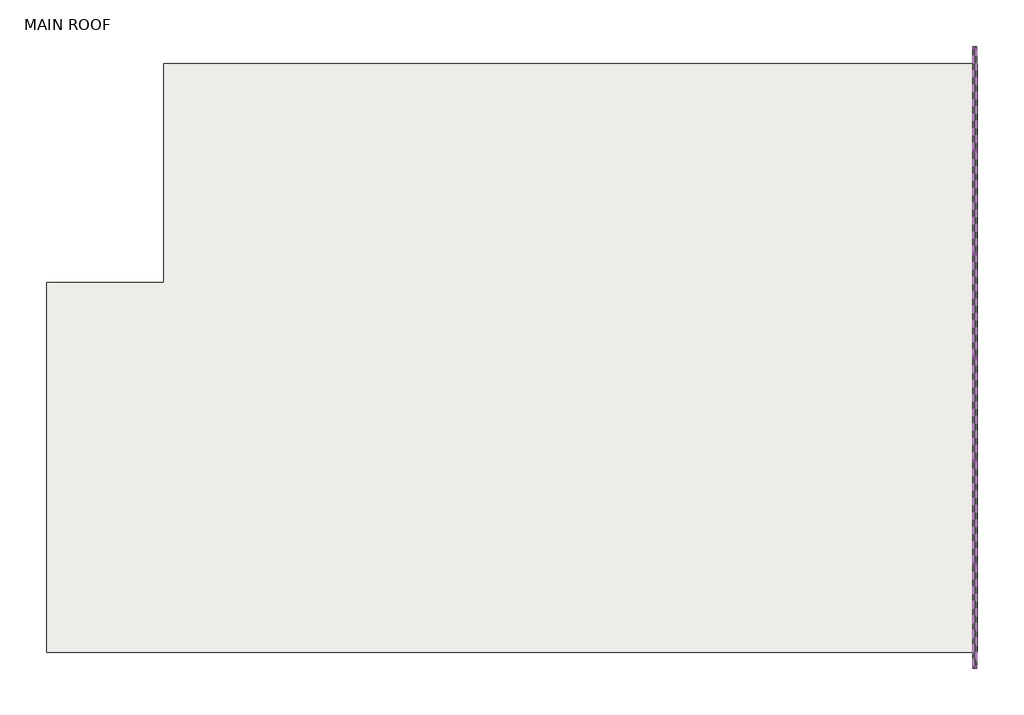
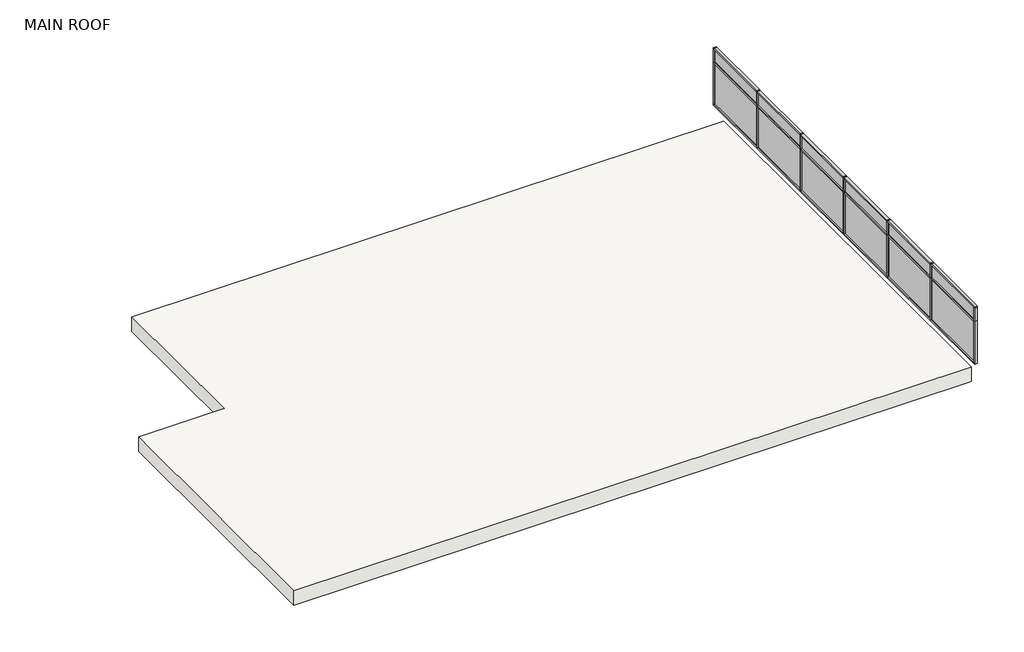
# One storey: 32 members, 12 plates, 1 roof.
"""IFC4 building model written with IfcOpenShell, lengths in millimetres."""

import ifcopenshell
import ifcopenshell.guid

model = None  # the IFC model being written
_history = None  # IfcOwnerHistory: only IFC2X3 demands one
_inside = {}  # id of a spatial element -> (the spatial element, [elements in it])
_under = {}  # id of a project, library or spatial element -> (it, [spatial elements below it])
_declared = {}  # id of a project -> (the project, [libraries it declares])
_typed = {}  # id of a type object -> (the type object, [elements of that type])
_made_of = {}  # id of a material, layer set ... -> (it, [elements and type objects made of it])


def new_model(schema):
    """Start an empty IFC model of exactly this schema.

    Asked for "IFC4X3", IfcOpenShell would pick the latest addendum, in which some entities
    have other attributes; the version numbers below select the first issue.
    IFC2X3 requires an IfcOwnerHistory on every rooted entity: one is made here for all.
    """
    global model, _history
    if schema == "IFC4X3":
        model = ifcopenshell.file(schema_version=(4, 3, 0, 0))
    else:
        model = ifcopenshell.file(schema=schema)
    _inside.clear()
    _under.clear()
    _declared.clear()
    _typed.clear()
    _made_of.clear()
    _history = None
    if model.schema == "IFC2X3":
        org = make("IfcOrganization", Name="unknown")
        user = make(
            "IfcPersonAndOrganization",
            ThePerson=make("IfcPerson", FamilyName="unknown"),
            TheOrganization=org,
        )
        app = make(
            "IfcApplication",
            ApplicationDeveloper=org,
            Version="unknown",
            ApplicationFullName="unknown",
            ApplicationIdentifier="unknown",
        )
        _history = make(
            "IfcOwnerHistory",
            OwningUser=user,
            OwningApplication=app,
            ChangeAction="ADDED",
            CreationDate=0,
        )
    return model


def make(cls, **values):
    """One entity of the class cls with the attributes given. An attribute that is None is left unset."""
    return model.create_entity(
        cls, **{name: value for name, value in values.items() if value is not None}
    )


def rooted(cls, **values):
    """An entity with a GlobalId (a new one), such as an element, a storey or a relation."""
    return make(cls, GlobalId=ifcopenshell.guid.new(), OwnerHistory=_history, **values)


def si_unit(unit_type, name, prefix=None):
    """IfcSIUnit, for example si_unit("LENGTHUNIT", "METRE", prefix="MILLI")."""
    return make("IfcSIUnit", UnitType=unit_type, Prefix=prefix, Name=name)


def assignment(units):
    """IfcUnitAssignment: the units of a project."""
    return None if units is None else make("IfcUnitAssignment", Units=units)


def point(xyz):
    """IfcCartesianPoint."""
    return None if xyz is None else make("IfcCartesianPoint", Coordinates=xyz)


def direction(xyz):
    """IfcDirection."""
    return None if xyz is None else make("IfcDirection", DirectionRatios=xyz)


def frame(location, z_axis=None, x_axis=None):
    """IfcAxis2Placement3D, a coordinate frame: its origin and axes. An axis left out is left unset."""
    return make(
        "IfcAxis2Placement3D",
        Location=point(location),
        Axis=direction(z_axis),
        RefDirection=direction(x_axis),
    )


def origin():
    """The frame at (0, 0, 0) with its axes left unset."""
    return frame((0.0, 0.0, 0.0))


def origin_with_axes():
    """The frame at (0, 0, 0) with the z axis (0, 0, 1) and the x axis (1, 0, 0) written out."""
    return frame((0.0, 0.0, 0.0), z_axis=(0.0, 0.0, 1.0), x_axis=(1.0, 0.0, 0.0))


def place(relative_to, where):
    """IfcLocalPlacement: puts the frame where relative to a parent placement (None: the world)."""
    return make(
        "IfcLocalPlacement", PlacementRelTo=relative_to, RelativePlacement=where
    )


def context(
    kind, dimensions, precision=None, world=None, true_north=None, identifier=None
):
    """IfcGeometricRepresentationContext, for example the 3D "Model" context."""
    return make(
        "IfcGeometricRepresentationContext",
        ContextIdentifier=identifier,
        ContextType=kind,
        CoordinateSpaceDimension=dimensions,
        Precision=precision,
        WorldCoordinateSystem=world,
        TrueNorth=true_north,
    )


def project(units=None, contexts=None):
    """IfcProject with its units and contexts."""
    return rooted(
        "IfcProject",
        Name="project",
        RepresentationContexts=contexts,
        UnitsInContext=assignment(units),
    )


def spatial(cls, under=None, at=None, **own):
    """A site, building, storey or space (cls), placed at a placement, below another one or the project."""
    s = rooted(cls, ObjectPlacement=at, **own)
    if under is not None:
        _under.setdefault(under.id(), (under, []))[1].append(s)
    return s


def polyline(points):
    """IfcPolyline through the points."""
    return make("IfcPolyline", Points=[point(p) for p in points])


def outline(outer, holes=None, kind="AREA"):
    """IfcArbitraryClosedProfileDef: a profile drawn as a closed curve; with holes, ...WithVoids."""
    if holes is None:
        return make("IfcArbitraryClosedProfileDef", ProfileType=kind, OuterCurve=outer)
    return make(
        "IfcArbitraryProfileDefWithVoids",
        ProfileType=kind,
        OuterCurve=outer,
        InnerCurves=holes,
    )


def extrude(swept, where, along, depth):
    """IfcExtrudedAreaSolid: the profile swept, set in the frame where, extruded along a direction by depth."""
    return make(
        "IfcExtrudedAreaSolid",
        SweptArea=swept,
        Position=where,
        ExtrudedDirection=direction(along),
        Depth=depth,
    )


def shape(context_of_items, identifier, shape_type, items):
    """IfcShapeRepresentation: the items that make up one representation, for example the "Body"."""
    return make(
        "IfcShapeRepresentation",
        ContextOfItems=context_of_items,
        RepresentationIdentifier=identifier,
        RepresentationType=shape_type,
        Items=items,
    )


def source(mapping_origin, context_of_items, identifier, shape_type, items):
    """IfcRepresentationMap: a shape defined once, which mapped items show again and again."""
    return make(
        "IfcRepresentationMap",
        MappingOrigin=mapping_origin,
        MappedRepresentation=shape(context_of_items, identifier, shape_type, items),
    )


def transform(
    local_origin,
    x_axis=None,
    y_axis=None,
    z_axis=None,
    scale=None,
    scale2=None,
    scale3=None,
    uniform=True,
):
    """IfcCartesianTransformationOperator3D, or its non-uniform kind. x_axis, y_axis, z_axis: its Axis1, 2, 3."""
    if uniform:
        return make(
            "IfcCartesianTransformationOperator3D",
            Axis1=direction(x_axis),
            Axis2=direction(y_axis),
            LocalOrigin=point(local_origin),
            Scale=scale,
            Axis3=direction(z_axis),
        )
    return make(
        "IfcCartesianTransformationOperator3DnonUniform",
        Axis1=direction(x_axis),
        Axis2=direction(y_axis),
        LocalOrigin=point(local_origin),
        Scale=scale,
        Axis3=direction(z_axis),
        Scale2=scale2,
        Scale3=scale3,
    )


def mapped(mapping_source, mapping_target):
    """IfcMappedItem: shows the shape of a source again, moved by a transform."""
    return make(
        "IfcMappedItem", MappingSource=mapping_source, MappingTarget=mapping_target
    )


def made_of(thing, what):
    """Note that an element or type object is made of a material, layer set ...; save() writes the relation."""
    if what is not None:
        _made_of.setdefault(what.id(), (what, []))[1].append(thing)
    return thing


def element(
    cls,
    number,
    at=None,
    inside=None,
    cuts=None,
    type_object=None,
    material=None,
    context=None,
    identifier="Body",
    shape_type=None,
    held_by="IfcProductDefinitionShape",
    body=None,
    shapes=None,
    **own,
):
    """One element of the class cls, such as IfcWall. Its Tag is "e" and its number.

    at: its placement. inside: the storey or other place that contains it. cuts: it is an
    opening in that element (IfcRelVoidsElement). A single representation is given by context,
    identifier, shape_type and body (its items); several are given by shapes. held_by: the class
    of the entity that holds the representations. save() writes the other relations.
    """
    e = rooted(cls, Tag="e%d" % number, ObjectPlacement=at, **own)
    if body is not None:
        shapes = [shape(context, identifier, shape_type, body)]
    if shapes is not None:
        e.Representation = make(held_by, Representations=shapes)
    if inside is not None:
        _inside.setdefault(inside.id(), (inside, []))[1].append(e)
    if cuts is not None:
        rooted(
            "IfcRelVoidsElement", RelatingBuildingElement=cuts, RelatedOpeningElement=e
        )
    if type_object is not None:
        _typed.setdefault(type_object.id(), (type_object, []))[1].append(e)
    return made_of(e, material)


def aggregate(whole, parts):
    """IfcRelAggregates: a whole, such as a stair, and the parts it consists of."""
    return rooted("IfcRelAggregates", RelatingObject=whole, RelatedObjects=parts)


def save(model, path):
    """Write the relations noted so far, then the file.

    IfcRelAggregates (storeys below a building ...), IfcRelContainedInSpatialStructure (elements
    in a storey), IfcRelDefinesByType, IfcRelAssociatesMaterial and IfcRelDeclares: one each for
    every whole, place, type object, material and project.
    """
    for whole, parts in _under.values():
        aggregate(whole, parts)
    for where, things in _inside.values():
        rooted(
            "IfcRelContainedInSpatialStructure",
            RelatedElements=things,
            RelatingStructure=where,
        )
    for kind, things in _typed.values():
        rooted("IfcRelDefinesByType", RelatedObjects=things, RelatingType=kind)
    for what, things in _made_of.values():
        rooted("IfcRelAssociatesMaterial", RelatedObjects=things, RelatingMaterial=what)
    for by, libraries in _declared.values():
        rooted("IfcRelDeclares", RelatingContext=by, RelatedDefinitions=libraries)
    model.write(path)


def rectangular_mullion_curtainwallmullion_rectangular_generic_e9761bef(model_context):
    return source(origin(), model_context, "Body", "SweptSolid", [
        extrude(outline(polyline([(25.0, 50.0), (25.0, -50.0), (-25.0, -50.0), (-25.0, 50.0), (25.0, 50.0)])), frame((0.0, 0.0, -1510.0), z_axis=(0.0, 0.0, 1.0), x_axis=(1.0, 0.0, 0.0)), (0.0, 0.0, 1.0), 1510.0),
    ])


def rectangular_mullion_curtainwallmullion_rectangular_generic_19f2ec03(model_context):
    return source(origin(), model_context, "Body", "SweptSolid", [
        extrude(outline(polyline([(0.0, 50.0), (0.0, -50.0), (-50.0, -50.0), (-50.0, 50.0), (0.0, 50.0)])), frame((0.0, 0.0, -1510.0), z_axis=(0.0, 0.0, 1.0), x_axis=(1.0, 0.0, 0.0)), (0.0, 0.0, 1.0), 1510.0),
    ])


def rectangular_mullion_curtainwallmullion_rectangular_generic_31fc3073(model_context):
    return source(origin(), model_context, "Body", "SweptSolid", [
        extrude(outline(polyline([(0.0, 50.0), (0.0, -50.0), (-50.0, -50.0), (-50.0, 50.0), (0.0, 50.0)])), frame((0.0, 0.0, -490.0), z_axis=(0.0, 0.0, 1.0), x_axis=(1.0, 0.0, 0.0)), (0.0, 0.0, 1.0), 490.0),
    ])


def rectangular_mullion_curtainwallmullion_rectangular_generic_46636cd4(model_context):
    return source(origin(), model_context, "Body", "SweptSolid", [
        extrude(outline(polyline([(25.0, 50.0), (25.0, -50.0), (-25.0, -50.0), (-25.0, 50.0), (25.0, 50.0)])), frame((0.0, 0.0, -540.0), z_axis=(0.0, 0.0, 1.0), x_axis=(1.0, 0.0, 0.0)), (0.0, 0.0, 1.0), 540.0),
    ])


def rectangular_mullion_curtainwallmullion_rectangular_generic_f1dbceae(model_context):
    return source(origin(), model_context, "Body", "SweptSolid", [
        extrude(outline(polyline([(0.0, 50.0), (0.0, -50.0), (-50.0, -50.0), (-50.0, 50.0), (0.0, 50.0)])), frame((0.0, 0.0, -540.0), z_axis=(0.0, 0.0, 1.0), x_axis=(1.0, 0.0, 0.0)), (0.0, 0.0, 1.0), 540.0),
    ])


def rectangular_mullion_curtainwallmullion_rectangular_generic_35570b25(model_context):
    return source(origin(), model_context, "Body", "SweptSolid", [
        extrude(outline(polyline([(0.0, 50.0), (0.0, -50.0), (-50.0, -50.0), (-50.0, 50.0), (0.0, 50.0)])), frame((0.0, 0.0, -1560.0), z_axis=(0.0, 0.0, 1.0), x_axis=(1.0, 0.0, 0.0)), (0.0, 0.0, 1.0), 1560.0),
    ])


def rectangular_mullion_curtainwallmullion_rectangular_generic_1c0dcadd(model_context):
    return source(origin(), model_context, "Body", "SweptSolid", [
        extrude(outline(polyline([(0.0, 50.0), (0.0, -50.0), (-50.0, -50.0), (-50.0, 50.0), (0.0, 50.0)])), frame((0.0, 0.0, -2543.3333335), z_axis=(0.0, 0.0, 1.0), x_axis=(1.0, 0.0, 0.0)), (0.0, 0.0, 1.0), 2543.3333335),
    ])


def rectangular_mullion_curtainwallmullion_rectangular_generic_4dfc917a(model_context):
    return source(origin(), model_context, "Body", "SweptSolid", [
        extrude(outline(polyline([(0.0, 50.0), (0.0, -50.0), (-50.0, -50.0), (-50.0, 50.0), (0.0, 50.0)])), frame((0.0, 0.0, -2593.3333335), z_axis=(0.0, 0.0, 1.0), x_axis=(1.0, 0.0, 0.0)), (0.0, 0.0, 1.0), 2593.3333335),
    ])


def rectangular_mullion_curtainwallmullion_rectangular_generic_a8301379(model_context):
    return source(origin(), model_context, "Body", "SweptSolid", [
        extrude(outline(polyline([(0.0, 50.0), (0.0, -50.0), (-50.0, -50.0), (-50.0, 50.0), (0.0, 50.0)])), frame((0.0, 0.0, -2568.3333335), z_axis=(0.0, 0.0, 1.0), x_axis=(1.0, 0.0, 0.0)), (0.0, 0.0, 1.0), 2568.3333335),
    ])


def rectangular_mullion_curtainwallmullion_rectangular_generic_54464770(model_context):
    return source(origin(), model_context, "Body", "SweptSolid", [
        extrude(outline(polyline([(0.0, 50.0), (0.0, -50.0), (-50.0, -50.0), (-50.0, 50.0), (0.0, 50.0)])), frame((0.0, 0.0, -2593.3333332), z_axis=(0.0, 0.0, 1.0), x_axis=(1.0, 0.0, 0.0)), (0.0, 0.0, 1.0), 2593.3333332),
    ])


def rectangular_mullion_curtainwallmullion_rectangular_generic_a47ad83a(model_context):
    return source(origin(), model_context, "Body", "SweptSolid", [
        extrude(outline(polyline([(0.0, 50.0), (0.0, -50.0), (-50.0, -50.0), (-50.0, 50.0), (0.0, 50.0)])), frame((0.0, 0.0, -2618.3333335), z_axis=(0.0, 0.0, 1.0), x_axis=(1.0, 0.0, 0.0)), (0.0, 0.0, 1.0), 2618.3333335),
    ])


def rectangular_mullion_curtainwallmullion_rectangular_generic_41a09792(model_context):
    return source(origin(), model_context, "Body", "SweptSolid", [
        extrude(outline(polyline([(25.0, 50.0), (25.0, -50.0), (-25.0, -50.0), (-25.0, 50.0), (25.0, 50.0)])), frame((0.0, 0.0, -2543.3333335), z_axis=(0.0, 0.0, 1.0), x_axis=(1.0, 0.0, 0.0)), (0.0, 0.0, 1.0), 2543.3333335),
    ])


def system_panel_curtainpanel_glazed_9491f273(model_context):
    return source(origin(), model_context, "Body", "SweptSolid", [
        extrude(outline(polyline([(1271.6666668, -12.5), (-1271.6666668, -12.5), (-1271.6666668, 12.5), (1271.6666668, 12.5), (1271.6666668, -12.5)])), origin_with_axes(), (0.0, 0.0, 1.0), 1485.0),
    ])


def system_panel_curtainpanel_solid_2c86f8c4(model_context):
    return source(origin(), model_context, "Body", "SweptSolid", [
        extrude(outline(polyline([(1271.6666668, -12.5), (-1271.6666668, -12.5), (-1271.6666668, 12.5), (1271.6666668, 12.5), (1271.6666668, -12.5)])), origin_with_axes(), (0.0, 0.0, 1.0), 465.0),
    ])


model = new_model("IFC4")

# Units and contexts
model_context = context("Model", 3, world=origin())
ifc_project = project(units=[si_unit("LENGTHUNIT", "METRE", prefix="MILLI")], contexts=[model_context])

# Site, building, storey
site = spatial("IfcSite", under=ifc_project)
building = spatial("IfcBuilding", under=site)
storey = spatial("IfcBuildingStorey", under=building, Name="MAIN ROOF", Elevation=8000.0)

# Members
placement = place(None, origin())
rectangular_mullion_curtainwallmullion_rectangular_generic_shape = rectangular_mullion_curtainwallmullion_rectangular_generic_e9761bef(model_context)
element("IfcMember", 1, ObjectType="Rectangular Mullion : CurtainWallMullion_Rectangular_Generic", at=placement, inside=storey, context=model_context, shape_type="MappedRepresentation", body=[
    mapped(rectangular_mullion_curtainwallmullion_rectangular_generic_shape, transform((445668.3206883, -394111.6693051, 8950.0), x_axis=(0.0, 1.0, 0.0), y_axis=(1.0, 0.0, 0.0), z_axis=(0.0, 0.0, -1.0))),
])
element("IfcMember", 2, ObjectType="Rectangular Mullion : CurtainWallMullion_Rectangular_Generic", at=placement, inside=storey, context=model_context, shape_type="MappedRepresentation", body=[
    mapped(rectangular_mullion_curtainwallmullion_rectangular_generic_shape, transform((445668.3206883, -391518.3359718, 8950.0), x_axis=(0.0, 1.0, 0.0), y_axis=(1.0, 0.0, 0.0), z_axis=(0.0, 0.0, -1.0))),
])
element("IfcMember", 3, ObjectType="Rectangular Mullion : CurtainWallMullion_Rectangular_Generic", at=placement, inside=storey, context=model_context, shape_type="MappedRepresentation", body=[
    mapped(rectangular_mullion_curtainwallmullion_rectangular_generic_shape, transform((445668.3206883, -388925.0026386, 8950.0), x_axis=(0.0, 1.0, 0.0), y_axis=(1.0, 0.0, 0.0), z_axis=(0.0, 0.0, -1.0))),
])
element("IfcMember", 4, ObjectType="Rectangular Mullion : CurtainWallMullion_Rectangular_Generic", at=placement, inside=storey, context=model_context, shape_type="MappedRepresentation", body=[
    mapped(rectangular_mullion_curtainwallmullion_rectangular_generic_shape, transform((445668.3206883, -386331.6693054, 8950.0), x_axis=(0.0, 1.0, 0.0), y_axis=(1.0, 0.0, 0.0), z_axis=(0.0, 0.0, -1.0))),
])
element("IfcMember", 5, ObjectType="Rectangular Mullion : CurtainWallMullion_Rectangular_Generic", at=placement, inside=storey, context=model_context, shape_type="MappedRepresentation", body=[
    mapped(rectangular_mullion_curtainwallmullion_rectangular_generic_shape, transform((445668.3206883, -383738.3359721, 8950.0), x_axis=(0.0, 1.0, 0.0), y_axis=(1.0, 0.0, 0.0), z_axis=(0.0, 0.0, -1.0))),
])
rectangular_mullion_curtainwallmullion_rectangular_generic_2_shape = rectangular_mullion_curtainwallmullion_rectangular_generic_19f2ec03(model_context)
element("IfcMember", 6, ObjectType="Rectangular Mullion : CurtainWallMullion_Rectangular_Generic", at=placement, inside=storey, context=model_context, shape_type="MappedRepresentation", body=[
    mapped(rectangular_mullion_curtainwallmullion_rectangular_generic_2_shape, transform((445668.3206883, -381120.0026386, 8950.0), x_axis=(0.0, 1.0, 0.0), y_axis=(1.0, 0.0, 0.0), z_axis=(0.0, 0.0, -1.0))),
])
rectangular_mullion_curtainwallmullion_rectangular_generic_3_shape = rectangular_mullion_curtainwallmullion_rectangular_generic_31fc3073(model_context)
element("IfcMember", 7, ObjectType="Rectangular Mullion : CurtainWallMullion_Rectangular_Generic", at=placement, inside=storey, context=model_context, shape_type="MappedRepresentation", body=[
    mapped(rectangular_mullion_curtainwallmullion_rectangular_generic_3_shape, transform((445668.3206883, -396730.0026386, 10950.0), x_axis=(0.0, -1.0, 0.0), y_axis=(1.0, 0.0, 0.0), z_axis=(0.0, 0.0, 1.0))),
])
rectangular_mullion_curtainwallmullion_rectangular_generic_4_shape = rectangular_mullion_curtainwallmullion_rectangular_generic_46636cd4(model_context)
element("IfcMember", 8, ObjectType="Rectangular Mullion : CurtainWallMullion_Rectangular_Generic", at=placement, inside=storey, context=model_context, shape_type="MappedRepresentation", body=[
    mapped(rectangular_mullion_curtainwallmullion_rectangular_generic_4_shape, transform((445668.3206883, -394111.6693051, 10460.0), x_axis=(0.0, 1.0, 0.0), y_axis=(1.0, 0.0, 0.0), z_axis=(0.0, 0.0, -1.0))),
])
element("IfcMember", 9, ObjectType="Rectangular Mullion : CurtainWallMullion_Rectangular_Generic", at=placement, inside=storey, context=model_context, shape_type="MappedRepresentation", body=[
    mapped(rectangular_mullion_curtainwallmullion_rectangular_generic_4_shape, transform((445668.3206883, -391518.3359718, 10460.0), x_axis=(0.0, 1.0, 0.0), y_axis=(1.0, 0.0, 0.0), z_axis=(0.0, 0.0, -1.0))),
])
element("IfcMember", 10, ObjectType="Rectangular Mullion : CurtainWallMullion_Rectangular_Generic", at=placement, inside=storey, context=model_context, shape_type="MappedRepresentation", body=[
    mapped(rectangular_mullion_curtainwallmullion_rectangular_generic_4_shape, transform((445668.3206883, -388925.0026386, 10460.0), x_axis=(0.0, 1.0, 0.0), y_axis=(1.0, 0.0, 0.0), z_axis=(0.0, 0.0, -1.0))),
])
element("IfcMember", 11, ObjectType="Rectangular Mullion : CurtainWallMullion_Rectangular_Generic", at=placement, inside=storey, context=model_context, shape_type="MappedRepresentation", body=[
    mapped(rectangular_mullion_curtainwallmullion_rectangular_generic_4_shape, transform((445668.3206883, -386331.6693054, 10460.0), x_axis=(0.0, 1.0, 0.0), y_axis=(1.0, 0.0, 0.0), z_axis=(0.0, 0.0, -1.0))),
])
element("IfcMember", 12, ObjectType="Rectangular Mullion : CurtainWallMullion_Rectangular_Generic", at=placement, inside=storey, context=model_context, shape_type="MappedRepresentation", body=[
    mapped(rectangular_mullion_curtainwallmullion_rectangular_generic_4_shape, transform((445668.3206883, -383738.3359721, 10460.0), x_axis=(0.0, 1.0, 0.0), y_axis=(1.0, 0.0, 0.0), z_axis=(0.0, 0.0, -1.0))),
])
rectangular_mullion_curtainwallmullion_rectangular_generic_5_shape = rectangular_mullion_curtainwallmullion_rectangular_generic_f1dbceae(model_context)
element("IfcMember", 13, ObjectType="Rectangular Mullion : CurtainWallMullion_Rectangular_Generic", at=placement, inside=storey, context=model_context, shape_type="MappedRepresentation", body=[
    mapped(rectangular_mullion_curtainwallmullion_rectangular_generic_5_shape, transform((445668.3206883, -381120.0026386, 10460.0), x_axis=(0.0, 1.0, 0.0), y_axis=(1.0, 0.0, 0.0), z_axis=(0.0, 0.0, -1.0))),
])
rectangular_mullion_curtainwallmullion_rectangular_generic_6_shape = rectangular_mullion_curtainwallmullion_rectangular_generic_35570b25(model_context)
element("IfcMember", 14, ObjectType="Rectangular Mullion : CurtainWallMullion_Rectangular_Generic", at=placement, inside=storey, context=model_context, shape_type="MappedRepresentation", body=[
    mapped(rectangular_mullion_curtainwallmullion_rectangular_generic_6_shape, transform((445668.3206883, -396730.0026386, 10460.0), x_axis=(0.0, -1.0, 0.0), y_axis=(1.0, 0.0, 0.0), z_axis=(0.0, 0.0, 1.0))),
])
rectangular_mullion_curtainwallmullion_rectangular_generic_7_shape = rectangular_mullion_curtainwallmullion_rectangular_generic_1c0dcadd(model_context)
element("IfcMember", 15, ObjectType="Rectangular Mullion : CurtainWallMullion_Rectangular_Generic", at=placement, inside=storey, context=model_context, shape_type="MappedRepresentation", body=[
    mapped(rectangular_mullion_curtainwallmullion_rectangular_generic_7_shape, transform((445668.3206883, -381170.0026386, 11000.0), x_axis=(0.0, 0.0, 1.0), y_axis=(1.0, 0.0, 0.0), z_axis=(0.0, 1.0, 0.0))),
])
element("IfcMember", 16, ObjectType="Rectangular Mullion : CurtainWallMullion_Rectangular_Generic", at=placement, inside=storey, context=model_context, shape_type="MappedRepresentation", body=[
    mapped(rectangular_mullion_curtainwallmullion_rectangular_generic_7_shape, transform((445668.3206883, -391543.3359718, 11000.0), x_axis=(0.0, 0.0, 1.0), y_axis=(1.0, 0.0, 0.0), z_axis=(0.0, 1.0, 0.0))),
])
element("IfcMember", 17, ObjectType="Rectangular Mullion : CurtainWallMullion_Rectangular_Generic", at=placement, inside=storey, context=model_context, shape_type="MappedRepresentation", body=[
    mapped(rectangular_mullion_curtainwallmullion_rectangular_generic_7_shape, transform((445668.3206883, -388950.0026386, 11000.0), x_axis=(0.0, 0.0, 1.0), y_axis=(1.0, 0.0, 0.0), z_axis=(0.0, 1.0, 0.0))),
])
element("IfcMember", 18, ObjectType="Rectangular Mullion : CurtainWallMullion_Rectangular_Generic", at=placement, inside=storey, context=model_context, shape_type="MappedRepresentation", body=[
    mapped(rectangular_mullion_curtainwallmullion_rectangular_generic_7_shape, transform((445668.3206883, -386356.6693054, 11000.0), x_axis=(0.0, 0.0, 1.0), y_axis=(1.0, 0.0, 0.0), z_axis=(0.0, 1.0, 0.0))),
])
element("IfcMember", 19, ObjectType="Rectangular Mullion : CurtainWallMullion_Rectangular_Generic", at=placement, inside=storey, context=model_context, shape_type="MappedRepresentation", body=[
    mapped(rectangular_mullion_curtainwallmullion_rectangular_generic_7_shape, transform((445668.3206883, -383763.3359721, 11000.0), x_axis=(0.0, 0.0, 1.0), y_axis=(1.0, 0.0, 0.0), z_axis=(0.0, 1.0, 0.0))),
])
rectangular_mullion_curtainwallmullion_rectangular_generic_8_shape = rectangular_mullion_curtainwallmullion_rectangular_generic_4dfc917a(model_context)
element("IfcMember", 20, ObjectType="Rectangular Mullion : CurtainWallMullion_Rectangular_Generic", at=placement, inside=storey, context=model_context, shape_type="MappedRepresentation", body=[
    mapped(rectangular_mullion_curtainwallmullion_rectangular_generic_8_shape, transform((445668.3206883, -394136.6693051, 11000.0), x_axis=(0.0, 0.0, 1.0), y_axis=(1.0, 0.0, 0.0), z_axis=(0.0, 1.0, 0.0))),
])
rectangular_mullion_curtainwallmullion_rectangular_generic_9_shape = rectangular_mullion_curtainwallmullion_rectangular_generic_a8301379(model_context)
element("IfcMember", 21, ObjectType="Rectangular Mullion : CurtainWallMullion_Rectangular_Generic", at=placement, inside=storey, context=model_context, shape_type="MappedRepresentation", body=[
    mapped(rectangular_mullion_curtainwallmullion_rectangular_generic_9_shape, transform((445668.3206883, -396680.0026386, 8900.0), x_axis=(0.0, 0.0, -1.0), y_axis=(1.0, 0.0, 0.0), z_axis=(0.0, -1.0, 0.0))),
])
rectangular_mullion_curtainwallmullion_rectangular_generic_10_shape = rectangular_mullion_curtainwallmullion_rectangular_generic_54464770(model_context)
element("IfcMember", 22, ObjectType="Rectangular Mullion : CurtainWallMullion_Rectangular_Generic", at=placement, inside=storey, context=model_context, shape_type="MappedRepresentation", body=[
    mapped(rectangular_mullion_curtainwallmullion_rectangular_generic_10_shape, transform((445668.3206883, -394111.6693051, 8900.0), x_axis=(0.0, 0.0, -1.0), y_axis=(1.0, 0.0, 0.0), z_axis=(0.0, -1.0, 0.0))),
])
element("IfcMember", 23, ObjectType="Rectangular Mullion : CurtainWallMullion_Rectangular_Generic", at=placement, inside=storey, context=model_context, shape_type="MappedRepresentation", body=[
    mapped(rectangular_mullion_curtainwallmullion_rectangular_generic_10_shape, transform((445668.3206883, -391518.3359718, 8900.0), x_axis=(0.0, 0.0, -1.0), y_axis=(1.0, 0.0, 0.0), z_axis=(0.0, -1.0, 0.0))),
])
element("IfcMember", 24, ObjectType="Rectangular Mullion : CurtainWallMullion_Rectangular_Generic", at=placement, inside=storey, context=model_context, shape_type="MappedRepresentation", body=[
    mapped(rectangular_mullion_curtainwallmullion_rectangular_generic_10_shape, transform((445668.3206883, -388925.0026386, 8900.0), x_axis=(0.0, 0.0, -1.0), y_axis=(1.0, 0.0, 0.0), z_axis=(0.0, -1.0, 0.0))),
])
element("IfcMember", 25, ObjectType="Rectangular Mullion : CurtainWallMullion_Rectangular_Generic", at=placement, inside=storey, context=model_context, shape_type="MappedRepresentation", body=[
    mapped(rectangular_mullion_curtainwallmullion_rectangular_generic_10_shape, transform((445668.3206883, -386331.6693054, 8900.0), x_axis=(0.0, 0.0, -1.0), y_axis=(1.0, 0.0, 0.0), z_axis=(0.0, -1.0, 0.0))),
])
rectangular_mullion_curtainwallmullion_rectangular_generic_11_shape = rectangular_mullion_curtainwallmullion_rectangular_generic_a47ad83a(model_context)
element("IfcMember", 26, ObjectType="Rectangular Mullion : CurtainWallMullion_Rectangular_Generic", at=placement, inside=storey, context=model_context, shape_type="MappedRepresentation", body=[
    mapped(rectangular_mullion_curtainwallmullion_rectangular_generic_11_shape, transform((445668.3206883, -383738.3359721, 8900.0), x_axis=(0.0, 0.0, -1.0), y_axis=(1.0, 0.0, 0.0), z_axis=(0.0, -1.0, 0.0))),
])
rectangular_mullion_curtainwallmullion_rectangular_generic_12_shape = rectangular_mullion_curtainwallmullion_rectangular_generic_41a09792(model_context)
element("IfcMember", 27, ObjectType="Rectangular Mullion : CurtainWallMullion_Rectangular_Generic", at=placement, inside=storey, context=model_context, shape_type="MappedRepresentation", body=[
    mapped(rectangular_mullion_curtainwallmullion_rectangular_generic_12_shape, transform((445668.3206883, -394136.6693051, 10460.0), x_axis=(0.0, 0.0, 1.0), y_axis=(1.0, 0.0, 0.0), z_axis=(0.0, 1.0, 0.0))),
])
element("IfcMember", 28, ObjectType="Rectangular Mullion : CurtainWallMullion_Rectangular_Generic", at=placement, inside=storey, context=model_context, shape_type="MappedRepresentation", body=[
    mapped(rectangular_mullion_curtainwallmullion_rectangular_generic_12_shape, transform((445668.3206883, -391543.3359718, 10460.0), x_axis=(0.0, 0.0, 1.0), y_axis=(1.0, 0.0, 0.0), z_axis=(0.0, 1.0, 0.0))),
])
element("IfcMember", 29, ObjectType="Rectangular Mullion : CurtainWallMullion_Rectangular_Generic", at=placement, inside=storey, context=model_context, shape_type="MappedRepresentation", body=[
    mapped(rectangular_mullion_curtainwallmullion_rectangular_generic_12_shape, transform((445668.3206883, -388950.0026386, 10460.0), x_axis=(0.0, 0.0, 1.0), y_axis=(1.0, 0.0, 0.0), z_axis=(0.0, 1.0, 0.0))),
])
element("IfcMember", 30, ObjectType="Rectangular Mullion : CurtainWallMullion_Rectangular_Generic", at=placement, inside=storey, context=model_context, shape_type="MappedRepresentation", body=[
    mapped(rectangular_mullion_curtainwallmullion_rectangular_generic_12_shape, transform((445668.3206883, -386356.6693054, 10460.0), x_axis=(0.0, 0.0, 1.0), y_axis=(1.0, 0.0, 0.0), z_axis=(0.0, 1.0, 0.0))),
])
element("IfcMember", 31, ObjectType="Rectangular Mullion : CurtainWallMullion_Rectangular_Generic", at=placement, inside=storey, context=model_context, shape_type="MappedRepresentation", body=[
    mapped(rectangular_mullion_curtainwallmullion_rectangular_generic_12_shape, transform((445668.3206883, -383763.3359721, 10460.0), x_axis=(0.0, 0.0, 1.0), y_axis=(1.0, 0.0, 0.0), z_axis=(0.0, 1.0, 0.0))),
])
element("IfcMember", 32, ObjectType="Rectangular Mullion : CurtainWallMullion_Rectangular_Generic", at=placement, inside=storey, context=model_context, shape_type="MappedRepresentation", body=[
    mapped(rectangular_mullion_curtainwallmullion_rectangular_generic_12_shape, transform((445668.3206883, -381170.0026386, 10460.0), x_axis=(0.0, 0.0, 1.0), y_axis=(1.0, 0.0, 0.0), z_axis=(0.0, 1.0, 0.0))),
])

# Plates
system_panel_curtainpanel_glazed_shape = system_panel_curtainpanel_glazed_9491f273(model_context)
element("IfcPlate", 33, ObjectType="System Panel : CurtainPanel_Glazed", at=placement, inside=storey, context=model_context, shape_type="MappedRepresentation", body=[
    mapped(system_panel_curtainpanel_glazed_shape, transform((445668.3206883, -395408.3359718, 8950.0), x_axis=(0.0, 1.0, 0.0), y_axis=(-1.0, 0.0, 0.0), z_axis=(0.0, 0.0, 1.0))),
])
element("IfcPlate", 34, ObjectType="System Panel : CurtainPanel_Glazed", at=placement, inside=storey, context=model_context, shape_type="MappedRepresentation", body=[
    mapped(system_panel_curtainpanel_glazed_shape, transform((445668.3206883, -392815.0026385, 8950.0), x_axis=(0.0, 1.0, 0.0), y_axis=(-1.0, 0.0, 0.0), z_axis=(0.0, 0.0, 1.0))),
])
element("IfcPlate", 35, ObjectType="System Panel : CurtainPanel_Glazed", at=placement, inside=storey, context=model_context, shape_type="MappedRepresentation", body=[
    mapped(system_panel_curtainpanel_glazed_shape, transform((445668.3206883, -390221.6693052, 8950.0), x_axis=(0.0, 1.0, 0.0), y_axis=(-1.0, 0.0, 0.0), z_axis=(0.0, 0.0, 1.0))),
])
element("IfcPlate", 36, ObjectType="System Panel : CurtainPanel_Glazed", at=placement, inside=storey, context=model_context, shape_type="MappedRepresentation", body=[
    mapped(system_panel_curtainpanel_glazed_shape, transform((445668.3206883, -387628.335972, 8950.0), x_axis=(0.0, 1.0, 0.0), y_axis=(-1.0, 0.0, 0.0), z_axis=(0.0, 0.0, 1.0))),
])
element("IfcPlate", 37, ObjectType="System Panel : CurtainPanel_Glazed", at=placement, inside=storey, context=model_context, shape_type="MappedRepresentation", body=[
    mapped(system_panel_curtainpanel_glazed_shape, transform((445668.3206883, -385035.0026388, 8950.0), x_axis=(0.0, 1.0, 0.0), y_axis=(-1.0, 0.0, 0.0), z_axis=(0.0, 0.0, 1.0))),
])
element("IfcPlate", 38, ObjectType="System Panel : CurtainPanel_Glazed", at=placement, inside=storey, context=model_context, shape_type="MappedRepresentation", body=[
    mapped(system_panel_curtainpanel_glazed_shape, transform((445668.3206883, -382441.6693054, 8950.0), x_axis=(0.0, 1.0, 0.0), y_axis=(-1.0, 0.0, 0.0), z_axis=(0.0, 0.0, 1.0))),
])
system_panel_curtainpanel_solid_shape = system_panel_curtainpanel_solid_2c86f8c4(model_context)
element("IfcPlate", 39, ObjectType="System Panel : CurtainPanel_Solid", at=placement, inside=storey, context=model_context, shape_type="MappedRepresentation", body=[
    mapped(system_panel_curtainpanel_solid_shape, transform((445668.3206883, -395408.3359718, 10485.0), x_axis=(0.0, 1.0, 0.0), y_axis=(-1.0, 0.0, 0.0), z_axis=(0.0, 0.0, 1.0))),
])
element("IfcPlate", 40, ObjectType="System Panel : CurtainPanel_Solid", at=placement, inside=storey, context=model_context, shape_type="MappedRepresentation", body=[
    mapped(system_panel_curtainpanel_solid_shape, transform((445668.3206883, -392815.0026385, 10485.0), x_axis=(0.0, 1.0, 0.0), y_axis=(-1.0, 0.0, 0.0), z_axis=(0.0, 0.0, 1.0))),
])
element("IfcPlate", 41, ObjectType="System Panel : CurtainPanel_Solid", at=placement, inside=storey, context=model_context, shape_type="MappedRepresentation", body=[
    mapped(system_panel_curtainpanel_solid_shape, transform((445668.3206883, -390221.6693052, 10485.0), x_axis=(0.0, 1.0, 0.0), y_axis=(-1.0, 0.0, 0.0), z_axis=(0.0, 0.0, 1.0))),
])
element("IfcPlate", 42, ObjectType="System Panel : CurtainPanel_Solid", at=placement, inside=storey, context=model_context, shape_type="MappedRepresentation", body=[
    mapped(system_panel_curtainpanel_solid_shape, transform((445668.3206883, -387628.335972, 10485.0), x_axis=(0.0, 1.0, 0.0), y_axis=(-1.0, 0.0, 0.0), z_axis=(0.0, 0.0, 1.0))),
])
element("IfcPlate", 43, ObjectType="System Panel : CurtainPanel_Solid", at=placement, inside=storey, context=model_context, shape_type="MappedRepresentation", body=[
    mapped(system_panel_curtainpanel_solid_shape, transform((445668.3206883, -385035.0026388, 10485.0), x_axis=(0.0, 1.0, 0.0), y_axis=(-1.0, 0.0, 0.0), z_axis=(0.0, 0.0, 1.0))),
])
element("IfcPlate", 44, ObjectType="System Panel : CurtainPanel_Solid", at=placement, inside=storey, context=model_context, shape_type="MappedRepresentation", body=[
    mapped(system_panel_curtainpanel_solid_shape, transform((445668.3206883, -382441.6693054, 10485.0), x_axis=(0.0, 1.0, 0.0), y_axis=(-1.0, 0.0, 0.0), z_axis=(0.0, 0.0, 1.0))),
])

# Roof
element("IfcRoof", 45, ObjectType="Roof_Generic400mm", at=placement, inside=storey, context=model_context, shape_type="SweptSolid", body=[
    extrude(outline(polyline([(425322.3206883, -381550.0026386), (445738.3206883, -381550.0026386), (445738.3206883, -396328.0026386), (422376.3206883, -396328.0026386), (422376.3206883, -387049.0026386), (425322.3206883, -387049.0026386), (425322.3206883, -381550.0026386)])), frame((0.0, 0.0, 8000.0), z_axis=(0.0, 0.0, 1.0), x_axis=(1.0, 0.0, 0.0)), (0.0, 0.0, 1.0), 525.0),
])

save(model, "model.ifc")
